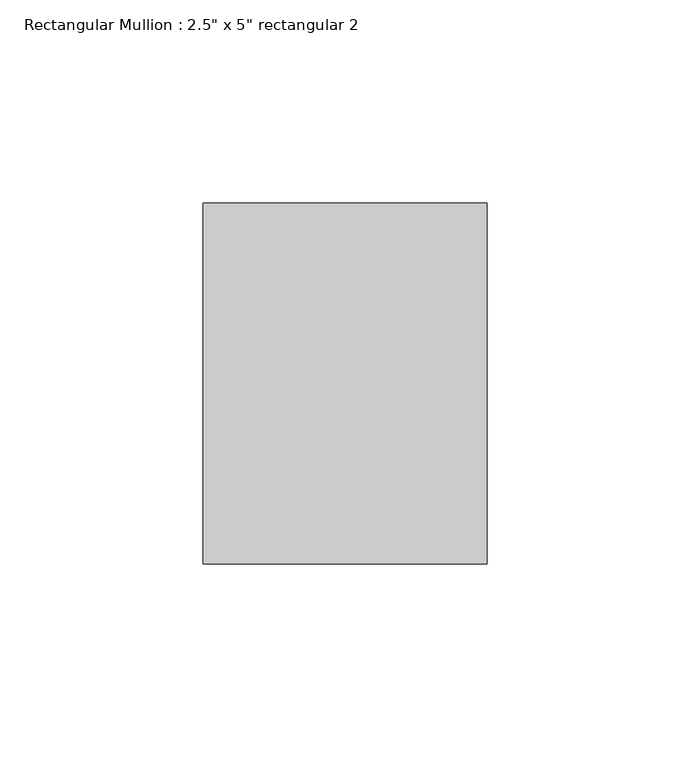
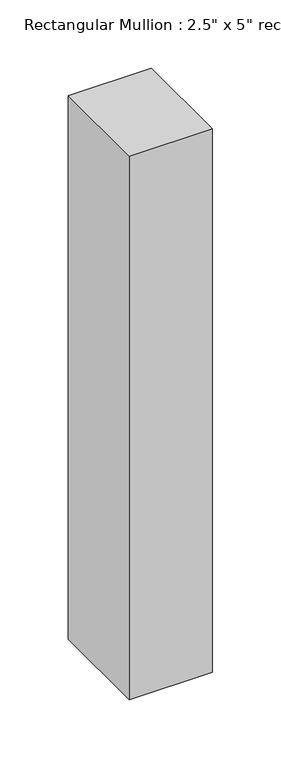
"""IFC4 building model written with IfcOpenShell, lengths in millimetres: member geometry."""

import ifcopenshell
import ifcopenshell.guid

model = None  # the IFC model being written
_history = None  # IfcOwnerHistory: only IFC2X3 demands one
_inside = {}  # id of a spatial element -> (the spatial element, [elements in it])
_under = {}  # id of a project, library or spatial element -> (it, [spatial elements below it])
_declared = {}  # id of a project -> (the project, [libraries it declares])
_typed = {}  # id of a type object -> (the type object, [elements of that type])
_made_of = {}  # id of a material, layer set ... -> (it, [elements and type objects made of it])


def new_model(schema):
    """Start an empty IFC model of exactly this schema.

    Asked for "IFC4X3", IfcOpenShell would pick the latest addendum, in which some entities
    have other attributes; the version numbers below select the first issue.
    IFC2X3 requires an IfcOwnerHistory on every rooted entity: one is made here for all.
    """
    global model, _history
    if schema == "IFC4X3":
        model = ifcopenshell.file(schema_version=(4, 3, 0, 0))
    else:
        model = ifcopenshell.file(schema=schema)
    _inside.clear()
    _under.clear()
    _declared.clear()
    _typed.clear()
    _made_of.clear()
    _history = None
    if model.schema == "IFC2X3":
        org = make("IfcOrganization", Name="unknown")
        user = make(
            "IfcPersonAndOrganization",
            ThePerson=make("IfcPerson", FamilyName="unknown"),
            TheOrganization=org,
        )
        app = make(
            "IfcApplication",
            ApplicationDeveloper=org,
            Version="unknown",
            ApplicationFullName="unknown",
            ApplicationIdentifier="unknown",
        )
        _history = make(
            "IfcOwnerHistory",
            OwningUser=user,
            OwningApplication=app,
            ChangeAction="ADDED",
            CreationDate=0,
        )
    return model


def make(cls, **values):
    """One entity of the class cls with the attributes given. An attribute that is None is left unset."""
    return model.create_entity(
        cls, **{name: value for name, value in values.items() if value is not None}
    )


def rooted(cls, **values):
    """An entity with a GlobalId (a new one), such as an element, a storey or a relation."""
    return make(cls, GlobalId=ifcopenshell.guid.new(), OwnerHistory=_history, **values)


def si_unit(unit_type, name, prefix=None):
    """IfcSIUnit, for example si_unit("LENGTHUNIT", "METRE", prefix="MILLI")."""
    return make("IfcSIUnit", UnitType=unit_type, Prefix=prefix, Name=name)


def assignment(units):
    """IfcUnitAssignment: the units of a project."""
    return None if units is None else make("IfcUnitAssignment", Units=units)


def point(xyz):
    """IfcCartesianPoint."""
    return None if xyz is None else make("IfcCartesianPoint", Coordinates=xyz)


def direction(xyz):
    """IfcDirection."""
    return None if xyz is None else make("IfcDirection", DirectionRatios=xyz)


def frame(location, z_axis=None, x_axis=None):
    """IfcAxis2Placement3D, a coordinate frame: its origin and axes. An axis left out is left unset."""
    return make(
        "IfcAxis2Placement3D",
        Location=point(location),
        Axis=direction(z_axis),
        RefDirection=direction(x_axis),
    )


def origin():
    """The frame at (0, 0, 0) with its axes left unset."""
    return frame((0.0, 0.0, 0.0))


def place(relative_to, where):
    """IfcLocalPlacement: puts the frame where relative to a parent placement (None: the world)."""
    return make(
        "IfcLocalPlacement", PlacementRelTo=relative_to, RelativePlacement=where
    )


def context(
    kind, dimensions, precision=None, world=None, true_north=None, identifier=None
):
    """IfcGeometricRepresentationContext, for example the 3D "Model" context."""
    return make(
        "IfcGeometricRepresentationContext",
        ContextIdentifier=identifier,
        ContextType=kind,
        CoordinateSpaceDimension=dimensions,
        Precision=precision,
        WorldCoordinateSystem=world,
        TrueNorth=true_north,
    )


def project(units=None, contexts=None):
    """IfcProject with its units and contexts."""
    return rooted(
        "IfcProject",
        Name="project",
        RepresentationContexts=contexts,
        UnitsInContext=assignment(units),
    )


def spatial(cls, under=None, at=None, **own):
    """A site, building, storey or space (cls), placed at a placement, below another one or the project."""
    s = rooted(cls, ObjectPlacement=at, **own)
    if under is not None:
        _under.setdefault(under.id(), (under, []))[1].append(s)
    return s


def polyline(points):
    """IfcPolyline through the points."""
    return make("IfcPolyline", Points=[point(p) for p in points])


def outline(outer, holes=None, kind="AREA"):
    """IfcArbitraryClosedProfileDef: a profile drawn as a closed curve; with holes, ...WithVoids."""
    if holes is None:
        return make("IfcArbitraryClosedProfileDef", ProfileType=kind, OuterCurve=outer)
    return make(
        "IfcArbitraryProfileDefWithVoids",
        ProfileType=kind,
        OuterCurve=outer,
        InnerCurves=holes,
    )


def extrude(swept, where, along, depth):
    """IfcExtrudedAreaSolid: the profile swept, set in the frame where, extruded along a direction by depth."""
    return make(
        "IfcExtrudedAreaSolid",
        SweptArea=swept,
        Position=where,
        ExtrudedDirection=direction(along),
        Depth=depth,
    )


def shape(context_of_items, identifier, shape_type, items):
    """IfcShapeRepresentation: the items that make up one representation, for example the "Body"."""
    return make(
        "IfcShapeRepresentation",
        ContextOfItems=context_of_items,
        RepresentationIdentifier=identifier,
        RepresentationType=shape_type,
        Items=items,
    )


def source(mapping_origin, context_of_items, identifier, shape_type, items):
    """IfcRepresentationMap: a shape defined once, which mapped items show again and again."""
    return make(
        "IfcRepresentationMap",
        MappingOrigin=mapping_origin,
        MappedRepresentation=shape(context_of_items, identifier, shape_type, items),
    )


def transform(
    local_origin,
    x_axis=None,
    y_axis=None,
    z_axis=None,
    scale=None,
    scale2=None,
    scale3=None,
    uniform=True,
):
    """IfcCartesianTransformationOperator3D, or its non-uniform kind. x_axis, y_axis, z_axis: its Axis1, 2, 3."""
    if uniform:
        return make(
            "IfcCartesianTransformationOperator3D",
            Axis1=direction(x_axis),
            Axis2=direction(y_axis),
            LocalOrigin=point(local_origin),
            Scale=scale,
            Axis3=direction(z_axis),
        )
    return make(
        "IfcCartesianTransformationOperator3DnonUniform",
        Axis1=direction(x_axis),
        Axis2=direction(y_axis),
        LocalOrigin=point(local_origin),
        Scale=scale,
        Axis3=direction(z_axis),
        Scale2=scale2,
        Scale3=scale3,
    )


def mapped(mapping_source, mapping_target):
    """IfcMappedItem: shows the shape of a source again, moved by a transform."""
    return make(
        "IfcMappedItem", MappingSource=mapping_source, MappingTarget=mapping_target
    )


def made_of(thing, what):
    """Note that an element or type object is made of a material, layer set ...; save() writes the relation."""
    if what is not None:
        _made_of.setdefault(what.id(), (what, []))[1].append(thing)
    return thing


def element(
    cls,
    number,
    at=None,
    inside=None,
    cuts=None,
    type_object=None,
    material=None,
    context=None,
    identifier="Body",
    shape_type=None,
    held_by="IfcProductDefinitionShape",
    body=None,
    shapes=None,
    **own,
):
    """One element of the class cls, such as IfcWall. Its Tag is "e" and its number.

    at: its placement. inside: the storey or other place that contains it. cuts: it is an
    opening in that element (IfcRelVoidsElement). A single representation is given by context,
    identifier, shape_type and body (its items); several are given by shapes. held_by: the class
    of the entity that holds the representations. save() writes the other relations.
    """
    e = rooted(cls, Tag="e%d" % number, ObjectPlacement=at, **own)
    if body is not None:
        shapes = [shape(context, identifier, shape_type, body)]
    if shapes is not None:
        e.Representation = make(held_by, Representations=shapes)
    if inside is not None:
        _inside.setdefault(inside.id(), (inside, []))[1].append(e)
    if cuts is not None:
        rooted(
            "IfcRelVoidsElement", RelatingBuildingElement=cuts, RelatedOpeningElement=e
        )
    if type_object is not None:
        _typed.setdefault(type_object.id(), (type_object, []))[1].append(e)
    return made_of(e, material)


def aggregate(whole, parts):
    """IfcRelAggregates: a whole, such as a stair, and the parts it consists of."""
    return rooted("IfcRelAggregates", RelatingObject=whole, RelatedObjects=parts)


def save(model, path):
    """Write the relations noted so far, then the file.

    IfcRelAggregates (storeys below a building ...), IfcRelContainedInSpatialStructure (elements
    in a storey), IfcRelDefinesByType, IfcRelAssociatesMaterial and IfcRelDeclares: one each for
    every whole, place, type object, material and project.
    """
    for whole, parts in _under.values():
        aggregate(whole, parts)
    for where, things in _inside.values():
        rooted(
            "IfcRelContainedInSpatialStructure",
            RelatedElements=things,
            RelatingStructure=where,
        )
    for kind, things in _typed.values():
        rooted("IfcRelDefinesByType", RelatedObjects=things, RelatingType=kind)
    for what, things in _made_of.values():
        rooted("IfcRelAssociatesMaterial", RelatedObjects=things, RelatingMaterial=what)
    for by, libraries in _declared.values():
        rooted("IfcRelDeclares", RelatingContext=by, RelatedDefinitions=libraries)
    model.write(path)


def member_aadd5dc7(model_context):
    return source(origin(), model_context, "Body", "SweptSolid", [
        extrude(outline(polyline([(0.0, 44.45), (0.0, -44.45), (-69.85, -44.45), (-69.85, 44.45), (0.0, 44.45)])), frame((0.0, 0.0, -484.2215561), z_axis=(0.0, 0.0, 1.0), x_axis=(1.0, 0.0, 0.0)), (0.0, 0.0, 1.0), 484.2215561),
    ])


if __name__ == "__main__":
    model = new_model("IFC4")
    model_context = context("Model", 3, world=origin())
    ifc_project = project(units=[si_unit("LENGTHUNIT", "METRE", prefix="MILLI")], contexts=[model_context])
    site = spatial("IfcSite", under=ifc_project)
    building = spatial("IfcBuilding", under=site)
    placement = place(None, origin())
    member_shape = member_aadd5dc7(model_context)
    element("IfcMember", 1, ObjectType="Rectangular Mullion : 2.5\" x 5\" rectangular 2", at=placement, inside=building, context=model_context, shape_type="MappedRepresentation", body=[
        mapped(member_shape, transform((0.0, 0.0, 0.0), x_axis=(1.0, 0.0, 0.0), y_axis=(0.0, 1.0, 0.0), z_axis=(0.0, 0.0, 1.0))),
    ])
    save(model, "model.ifc")
